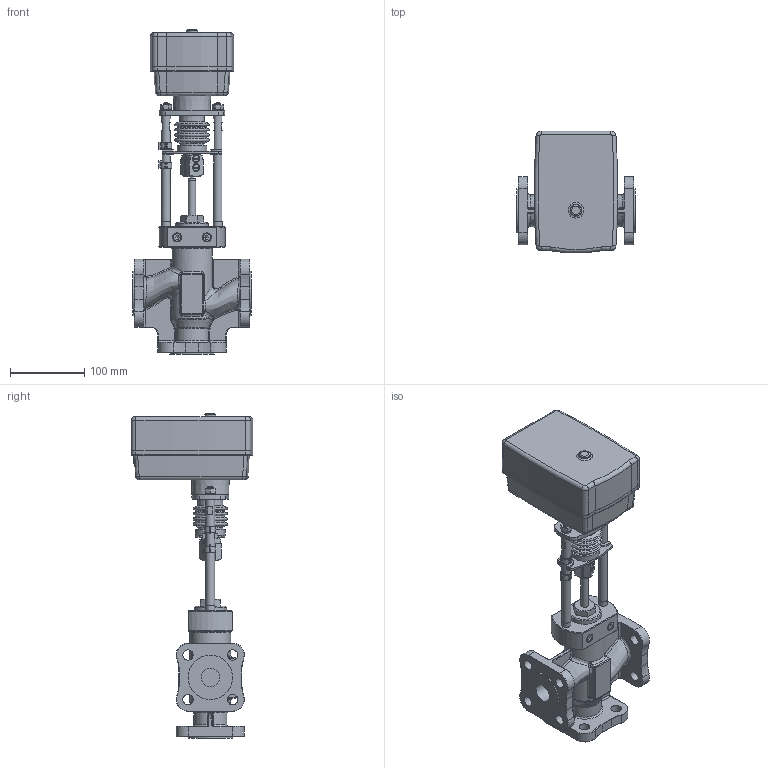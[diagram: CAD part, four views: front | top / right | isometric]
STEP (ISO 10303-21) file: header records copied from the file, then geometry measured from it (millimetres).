
FILE_DESCRIPTION(/* description */ ('Unknown'),/* implementation_level */ '2;1');
FILE_NAME(/* name */ 'Клапан DN25-3х',/* time_stamp */ '2023-01-16T11:19:31+03:00',/* author */ ('Unknown'),/* organization */ ('Unknown'),/* preprocessor_version */ 'ST-DEVELOPER v16.7',/* originating_system */ 'DEX',/* authorisation */ $);
FILE_SCHEMA (('AUTOMOTIVE_DESIGN {1 0 10303 214 3 1 1}'));
Length unit declared in the file: millimetre
Products named in the file (3): Êëàïàí DN25-3õ; Äó25-3õ; Ñáîðêà ¹5
Assembly tree (2 placements, depth 2):
  Êëàïàí DN25-3õ
    Äó25-3õ
    Ñáîðêà ¹5
Bounding box: 160 x 164.51 x 437.4 mm (x, y, z)
Volume: 2465236.5 mm3; surface area: 265227.5 mm2
Topology: 3 solids, 6 shells, 838 faces, 2036 edges, 1247 vertices
Faces by surface type: plane 333, cylinder 230, torus 105, bspline 86, cone 72, sphere 12
Full cylindrical faces by diameter (mm): 4.134 x2, 5 x3, 5.2 x5, 6.5 x1, 6.647 x2, 8 x5, 10 x4, 12 x2, 12.002 x4, 12.2 x2, 13.8 x2, 14 x12, 15 x1, 15.6 x1, 20 x1, 25 x3, 33.4 x1, 33.972 x1, 40 x1, 44 x2, 44.5 x1, 55 x1, 60 x3
Entity records: 29058 total; most frequent: CARTESIAN_POINT 7382, DIRECTION 3872, ORIENTED_EDGE 3712, EDGE_CURVE 1856, AXIS2_PLACEMENT_3D 1561, VERTEX_POINT 1190, FACE_BOUND 1040, EDGE_LOOP 1038
